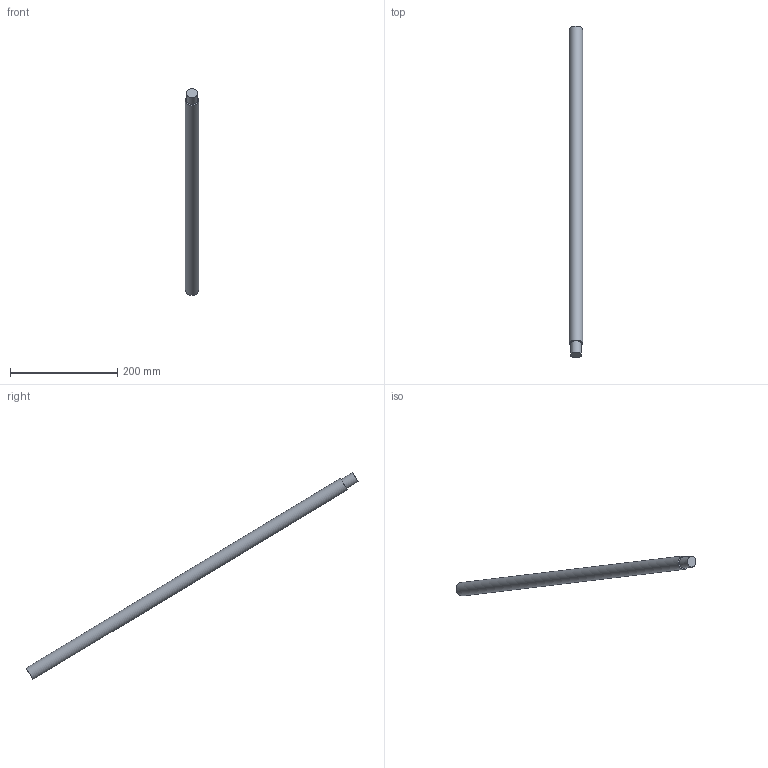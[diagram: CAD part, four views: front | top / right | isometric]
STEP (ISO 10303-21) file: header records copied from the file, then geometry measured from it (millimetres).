
FILE_DESCRIPTION(('Open CASCADE Model'),'2;1');
FILE_NAME('Open CASCADE Shape Model','2026-09-19T12:55:11',('Author'),( 'Open CASCADE'),'Open CASCADE STEP processor 7.9','Open CASCADE 7.9' ,'Unknown');
FILE_SCHEMA(('AUTOMOTIVE_DESIGN { 1 0 10303 214 1 1 1 1 }'));
Length unit declared in the file: millimetre
Products named in the file (1): Open CASCADE STEP translator 7.9 11
Bounding box: 25 x 619.44 x 386.24 mm (x, y, z)
Volume: 344102.6 mm3; surface area: 56352.3 mm2
Topology: 1 solids, 1 shells, 5 faces, 6 edges, 4 vertices
Faces by surface type: plane 3, cylinder 2
Full cylindrical faces by diameter (mm): 20 x1, 25 x1
Entity records: 192 total; most frequent: DIRECTION 34, CARTESIAN_POINT 28, ORIENTED_EDGE 12, PCURVE 12, DEFINITIONAL_REPRESENTATION 12, AXIS2_PLACEMENT_3D 10, LINE 10, VECTOR 10
